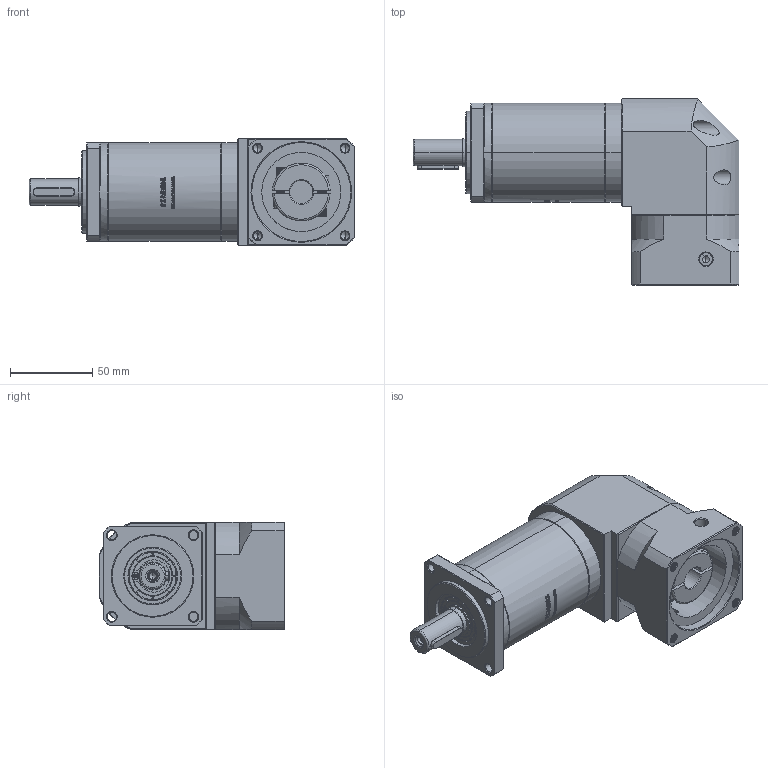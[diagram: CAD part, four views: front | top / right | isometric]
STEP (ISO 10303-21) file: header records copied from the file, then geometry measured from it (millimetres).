
FILE_DESCRIPTION (( 'STEP AP214' ), '1' );
FILE_NAME ('ZFR60-D16-L3-14-60-75-M6.STEP', '2022-04-20T09:09:32', ( '' ), ( 'Microsoft' ), 'SwSTEP 2.0', 'SolidWorks 2016', '' );
FILE_SCHEMA (( 'AUTOMOTIVE_DESIGN' ));
Length unit declared in the file: millimetre
Products named in the file (1): ZFR60-D16-L3-14-60-75-M6
Bounding box: 197.5 x 112.7 x 65 mm (x, y, z)
Volume: 651372.4 mm3; surface area: 87215.2 mm2
Topology: 5 solids, 6 shells, 2692 faces, 7346 edges, 4791 vertices
Faces by surface type: plane 1397, bspline 579, cylinder 402, cone 290, torus 24
Entity records: 149222 total; most frequent: CARTESIAN_POINT 57067, ORIENTED_EDGE 14648, DIRECTION 10545, EDGE_CURVE 7324, VERTEX_POINT 4791, VECTOR 4399, LINE 4399, AXIS2_PLACEMENT_3D 3073
